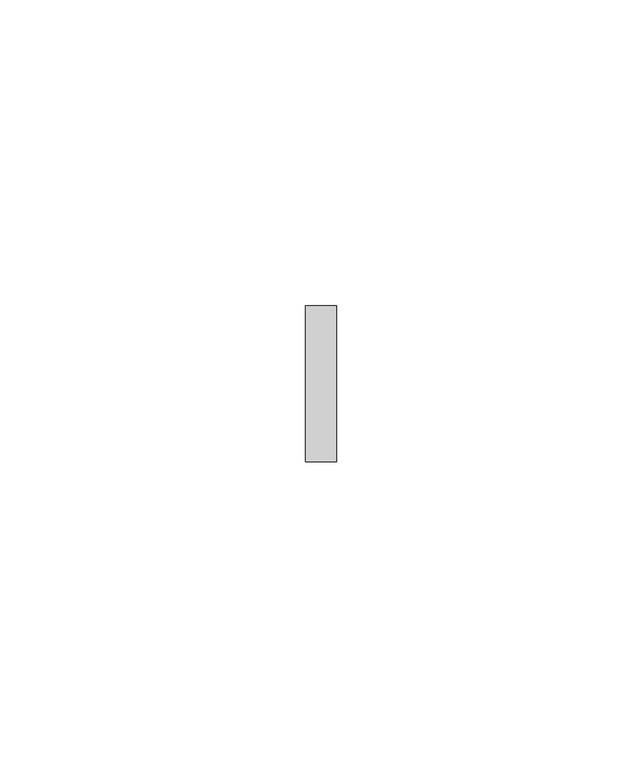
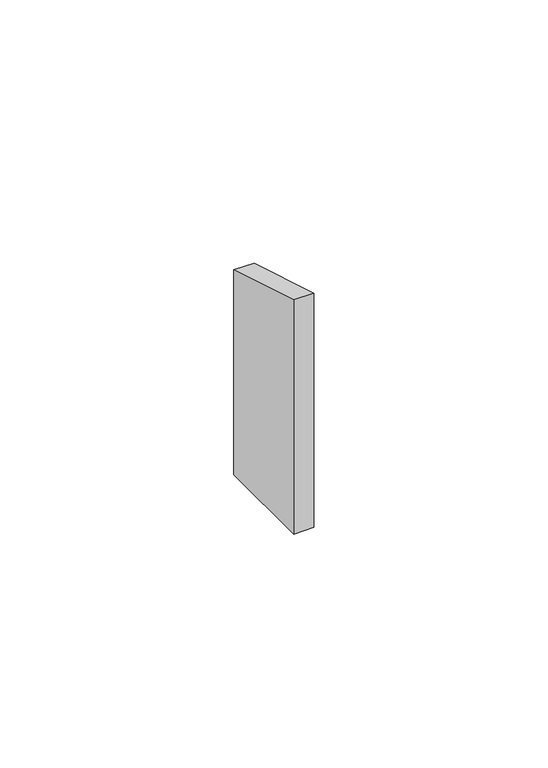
"""IFC4 building model written with IfcOpenShell, lengths in millimetres: proxy geometry, Odbojniki - OPK301 : Odbojniki - OPK301."""

from ifc_helpers import new_model, si_unit, frame, origin, place, context, project, spatial, polyline, outline, extrude, source, transform, mapped, element, save


def generic_models_36d00aa6(model_context):
    return source(origin(), model_context, "Body", "SweptSolid", [
        extrude(outline(polyline([(34.25, 50.4880613), (34.25, -3.0), (8.75, -3.0), (8.75, 58.1380613), (34.25, 50.4880613)])), frame((-2.5, 0.0, 0.0), z_axis=(1.0, 0.0, 0.0), x_axis=(0.0, 1.0, 0.0)), (0.0, 0.0, 1.0), 5.0),
    ])


if __name__ == "__main__":
    model = new_model("IFC4")
    model_context = context("Model", 3, world=origin())
    ifc_project = project(units=[si_unit("LENGTHUNIT", "METRE", prefix="MILLI")], contexts=[model_context])
    site = spatial("IfcSite", under=ifc_project)
    building = spatial("IfcBuilding", under=site)
    placement = place(None, origin())
    generic_models_shape = generic_models_36d00aa6(model_context)
    element("IfcBuildingElementProxy", 1, Name="Odbojniki - OPK301 : Odbojniki - OPK301", ObjectType="Odbojniki - OPK301 : Odbojniki - OPK301", at=placement, inside=building, context=model_context, shape_type="MappedRepresentation", body=[
        mapped(generic_models_shape, transform((0.0, 0.0, 0.0), x_axis=(1.0, 0.0, 0.0), y_axis=(0.0, 1.0, 0.0), z_axis=(0.0, 0.0, 1.0))),
    ])
    save(model, "model.ifc")
